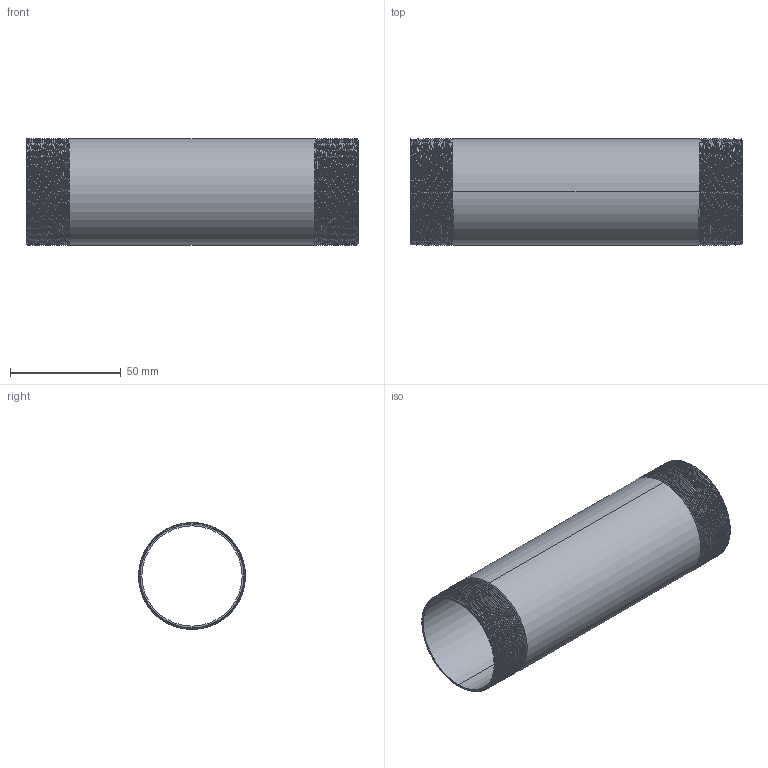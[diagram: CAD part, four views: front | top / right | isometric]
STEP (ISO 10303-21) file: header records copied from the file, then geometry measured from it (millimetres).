
FILE_DESCRIPTION (( 'STEP AP203' ), '1' );
FILE_NAME ('3D_R210_1 1-2x150_17185170.STEP', '2024-08-16T10:42:26', ( '' ), ( '' ), 'SwSTEP 2.0', 'SolidWorks 2024', '' );
FILE_SCHEMA (( 'CONFIG_CONTROL_DESIGN' ));
Length unit declared in the file: millimetre
Products named in the file (1): 3D_R210_1 1-2x150_17185170
Bounding box: 150 x 48.26 x 48.3 mm (x, y, z)
Volume: 31226.5 mm3; surface area: 47330.7 mm2
Topology: 1 solids, 1 shells, 96 faces, 274 edges, 180 vertices
Faces by surface type: cone 82, bspline 6, cylinder 4, plane 4
Entity records: 17761 total; most frequent: CARTESIAN_POINT 15531, ORIENTED_EDGE 548, DIRECTION 302, EDGE_CURVE 274, VERTEX_POINT 180, B_SPLINE_CURVE_WITH_KNOTS 160, AXIS2_PLACEMENT_3D 105, EDGE_LOOP 98
